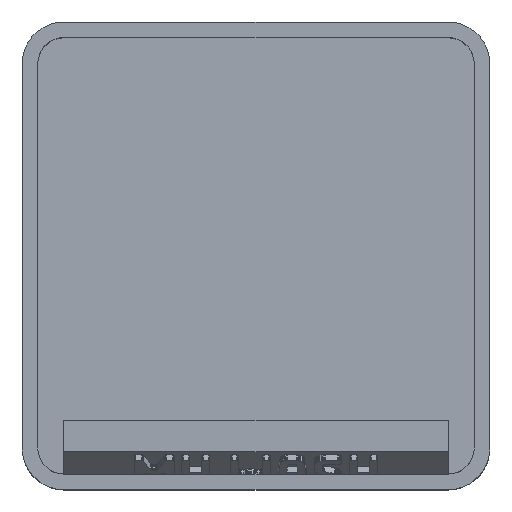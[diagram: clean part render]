
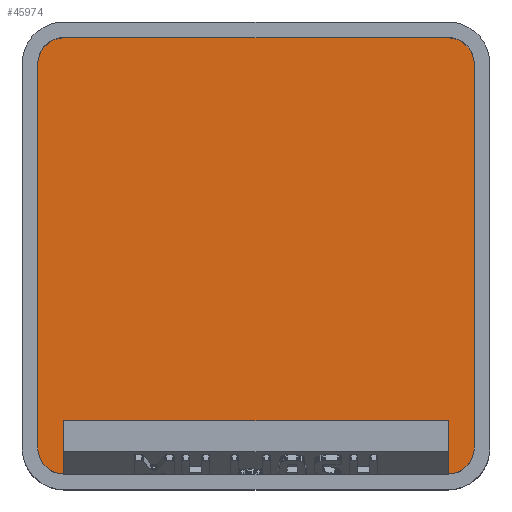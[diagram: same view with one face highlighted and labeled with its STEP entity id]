
A CAD part, top view. The second image highlights one B-rep face of the part: STEP entity #45974.
In plain terms, the highlighted planar face has unit normal (0, 0, 1).
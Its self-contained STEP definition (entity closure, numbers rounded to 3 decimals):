
#912 = PLANE('',#913);
#913 = AXIS2_PLACEMENT_3D('',#914,#915,#916);
#914 = CARTESIAN_POINT('',(-19.6,0.,21.));
#915 = DIRECTION('',(-1.,0.,0.));
#916 = DIRECTION('',(-0.,-1.,-0.));
#940 = CYLINDRICAL_SURFACE('',#941,2.35);
#941 = AXIS2_PLACEMENT_3D('',#942,#943,#944);
#942 = CARTESIAN_POINT('',(-17.25,17.25,5.95));
#943 = DIRECTION('',(-0.,-0.,1.));
#944 = DIRECTION('',(-1.,0.,0.));
#967 = PLANE('',#968);
#968 = AXIS2_PLACEMENT_3D('',#969,#970,#971);
#969 = CARTESIAN_POINT('',(0.,19.6,21.));
#970 = DIRECTION('',(0.,1.,0.));
#971 = DIRECTION('',(-1.,0.,0.));
#995 = CYLINDRICAL_SURFACE('',#996,2.35);
#996 = AXIS2_PLACEMENT_3D('',#997,#998,#999);
#997 = CARTESIAN_POINT('',(17.25,17.25,5.95));
#998 = DIRECTION('',(-0.,-0.,1.));
#999 = DIRECTION('',(-1.,0.,0.));
#1022 = PLANE('',#1023);
#1023 = AXIS2_PLACEMENT_3D('',#1024,#1025,#1026);
#1024 = CARTESIAN_POINT('',(19.6,0.,21.));
#1025 = DIRECTION('',(1.,0.,0.));
#1026 = DIRECTION('',(-0.,1.,0.));
#1050 = CYLINDRICAL_SURFACE('',#1051,2.35);
#1051 = AXIS2_PLACEMENT_3D('',#1052,#1053,#1054);
#1052 = CARTESIAN_POINT('',(17.25,-17.25,5.95));
#1053 = DIRECTION('',(-0.,-0.,1.));
#1054 = DIRECTION('',(-1.,0.,0.));
#1103 = CYLINDRICAL_SURFACE('',#1104,2.35);
#1104 = AXIS2_PLACEMENT_3D('',#1105,#1106,#1107);
#1105 = CARTESIAN_POINT('',(-17.25,-17.25,5.95));
#1106 = DIRECTION('',(-0.,-0.,1.));
#1107 = DIRECTION('',(-1.,0.,0.));
#16905 = EDGE_CURVE('',#16906,#16908,#16910,.T.);
#16906 = VERTEX_POINT('',#16907);
#16907 = CARTESIAN_POINT('',(-19.6,-17.25,5.95));
#16908 = VERTEX_POINT('',#16909);
#16909 = CARTESIAN_POINT('',(-19.6,17.25,5.95));
#16910 = SURFACE_CURVE('',#16911,(#16915,#16922),.PCURVE_S1.);
#16911 = LINE('',#16912,#16913);
#16912 = CARTESIAN_POINT('',(-19.6,0.,5.95));
#16913 = VECTOR('',#16914,1.);
#16914 = DIRECTION('',(0.,1.,0.));
#16915 = PCURVE('',#912,#16916);
#16916 = DEFINITIONAL_REPRESENTATION('',(#16917),#16921);
#16917 = LINE('',#16918,#16919);
#16918 = CARTESIAN_POINT('',(0.,-15.05));
#16919 = VECTOR('',#16920,1.);
#16920 = DIRECTION('',(-1.,0.));
#16921 = ( GEOMETRIC_REPRESENTATION_CONTEXT(2) 
PARAMETRIC_REPRESENTATION_CONTEXT() REPRESENTATION_CONTEXT('2D SPACE',''
  ) );
#16922 = PCURVE('',#16923,#16928);
#16923 = PLANE('',#16924);
#16924 = AXIS2_PLACEMENT_3D('',#16925,#16926,#16927);
#16925 = CARTESIAN_POINT('',(-17.25,-17.25,5.95));
#16926 = DIRECTION('',(0.,0.,-1.));
#16927 = DIRECTION('',(-1.,0.,0.));
#16928 = DEFINITIONAL_REPRESENTATION('',(#16929),#16933);
#16929 = LINE('',#16930,#16931);
#16930 = CARTESIAN_POINT('',(2.35,17.25));
#16931 = VECTOR('',#16932,1.);
#16932 = DIRECTION('',(0.,1.));
#16933 = ( GEOMETRIC_REPRESENTATION_CONTEXT(2) 
PARAMETRIC_REPRESENTATION_CONTEXT() REPRESENTATION_CONTEXT('2D SPACE',''
  ) );
#16980 = EDGE_CURVE('',#16981,#16906,#16983,.T.);
#16981 = VERTEX_POINT('',#16982);
#16982 = CARTESIAN_POINT('',(-17.25,-19.6,5.95));
#16983 = SURFACE_CURVE('',#16984,(#16989,#16996),.PCURVE_S1.);
#16984 = CIRCLE('',#16985,2.35);
#16985 = AXIS2_PLACEMENT_3D('',#16986,#16987,#16988);
#16986 = CARTESIAN_POINT('',(-17.25,-17.25,5.95));
#16987 = DIRECTION('',(0.,0.,-1.));
#16988 = DIRECTION('',(-1.,0.,0.));
#16989 = PCURVE('',#1103,#16990);
#16990 = DEFINITIONAL_REPRESENTATION('',(#16991),#16995);
#16991 = LINE('',#16992,#16993);
#16992 = CARTESIAN_POINT('',(6.283,0.));
#16993 = VECTOR('',#16994,1.);
#16994 = DIRECTION('',(-1.,0.));
#16995 = ( GEOMETRIC_REPRESENTATION_CONTEXT(2) 
PARAMETRIC_REPRESENTATION_CONTEXT() REPRESENTATION_CONTEXT('2D SPACE',''
  ) );
#16996 = PCURVE('',#16923,#16997);
#16997 = DEFINITIONAL_REPRESENTATION('',(#16998),#17002);
#16998 = CIRCLE('',#16999,2.35);
#16999 = AXIS2_PLACEMENT_2D('',#17000,#17001);
#17000 = CARTESIAN_POINT('',(0.,0.));
#17001 = DIRECTION('',(1.,0.));
#17002 = ( GEOMETRIC_REPRESENTATION_CONTEXT(2) 
PARAMETRIC_REPRESENTATION_CONTEXT() REPRESENTATION_CONTEXT('2D SPACE',''
  ) );
#17020 = PLANE('',#17021);
#17021 = AXIS2_PLACEMENT_3D('',#17022,#17023,#17024);
#17022 = CARTESIAN_POINT('',(0.,-19.6,21.));
#17023 = DIRECTION('',(0.,-1.,0.));
#17024 = DIRECTION('',(1.,0.,0.));
#17107 = EDGE_CURVE('',#17108,#17110,#17112,.T.);
#17108 = VERTEX_POINT('',#17109);
#17109 = CARTESIAN_POINT('',(19.6,-17.25,5.95));
#17110 = VERTEX_POINT('',#17111);
#17111 = CARTESIAN_POINT('',(17.25,-19.6,5.95));
#17112 = SURFACE_CURVE('',#17113,(#17118,#17125),.PCURVE_S1.);
#17113 = CIRCLE('',#17114,2.35);
#17114 = AXIS2_PLACEMENT_3D('',#17115,#17116,#17117);
#17115 = CARTESIAN_POINT('',(17.25,-17.25,5.95));
#17116 = DIRECTION('',(0.,0.,-1.));
#17117 = DIRECTION('',(-1.,0.,0.));
#17118 = PCURVE('',#1050,#17119);
#17119 = DEFINITIONAL_REPRESENTATION('',(#17120),#17124);
#17120 = LINE('',#17121,#17122);
#17121 = CARTESIAN_POINT('',(6.283,0.));
#17122 = VECTOR('',#17123,1.);
#17123 = DIRECTION('',(-1.,0.));
#17124 = ( GEOMETRIC_REPRESENTATION_CONTEXT(2) 
PARAMETRIC_REPRESENTATION_CONTEXT() REPRESENTATION_CONTEXT('2D SPACE',''
  ) );
#17125 = PCURVE('',#16923,#17126);
#17126 = DEFINITIONAL_REPRESENTATION('',(#17127),#17131);
#17127 = CIRCLE('',#17128,2.35);
#17128 = AXIS2_PLACEMENT_2D('',#17129,#17130);
#17129 = CARTESIAN_POINT('',(-34.5,0.));
#17130 = DIRECTION('',(1.,0.));
#17131 = ( GEOMETRIC_REPRESENTATION_CONTEXT(2) 
PARAMETRIC_REPRESENTATION_CONTEXT() REPRESENTATION_CONTEXT('2D SPACE',''
  ) );
#17205 = EDGE_CURVE('',#17108,#17206,#17208,.T.);
#17206 = VERTEX_POINT('',#17207);
#17207 = CARTESIAN_POINT('',(19.6,17.25,5.95));
#17208 = SURFACE_CURVE('',#17209,(#17213,#17220),.PCURVE_S1.);
#17209 = LINE('',#17210,#17211);
#17210 = CARTESIAN_POINT('',(19.6,0.,5.95));
#17211 = VECTOR('',#17212,1.);
#17212 = DIRECTION('',(0.,1.,0.));
#17213 = PCURVE('',#1022,#17214);
#17214 = DEFINITIONAL_REPRESENTATION('',(#17215),#17219);
#17215 = LINE('',#17216,#17217);
#17216 = CARTESIAN_POINT('',(0.,-15.05));
#17217 = VECTOR('',#17218,1.);
#17218 = DIRECTION('',(1.,0.));
#17219 = ( GEOMETRIC_REPRESENTATION_CONTEXT(2) 
PARAMETRIC_REPRESENTATION_CONTEXT() REPRESENTATION_CONTEXT('2D SPACE',''
  ) );
#17220 = PCURVE('',#16923,#17221);
#17221 = DEFINITIONAL_REPRESENTATION('',(#17222),#17226);
#17222 = LINE('',#17223,#17224);
#17223 = CARTESIAN_POINT('',(-36.85,17.25));
#17224 = VECTOR('',#17225,1.);
#17225 = DIRECTION('',(0.,1.));
#17226 = ( GEOMETRIC_REPRESENTATION_CONTEXT(2) 
PARAMETRIC_REPRESENTATION_CONTEXT() REPRESENTATION_CONTEXT('2D SPACE',''
  ) );
#17253 = EDGE_CURVE('',#17254,#17206,#17256,.T.);
#17254 = VERTEX_POINT('',#17255);
#17255 = CARTESIAN_POINT('',(17.25,19.6,5.95));
#17256 = SURFACE_CURVE('',#17257,(#17262,#17269),.PCURVE_S1.);
#17257 = CIRCLE('',#17258,2.35);
#17258 = AXIS2_PLACEMENT_3D('',#17259,#17260,#17261);
#17259 = CARTESIAN_POINT('',(17.25,17.25,5.95));
#17260 = DIRECTION('',(0.,0.,-1.));
#17261 = DIRECTION('',(-1.,0.,0.));
#17262 = PCURVE('',#995,#17263);
#17263 = DEFINITIONAL_REPRESENTATION('',(#17264),#17268);
#17264 = LINE('',#17265,#17266);
#17265 = CARTESIAN_POINT('',(6.283,0.));
#17266 = VECTOR('',#17267,1.);
#17267 = DIRECTION('',(-1.,0.));
#17268 = ( GEOMETRIC_REPRESENTATION_CONTEXT(2) 
PARAMETRIC_REPRESENTATION_CONTEXT() REPRESENTATION_CONTEXT('2D SPACE',''
  ) );
#17269 = PCURVE('',#16923,#17270);
#17270 = DEFINITIONAL_REPRESENTATION('',(#17271),#17275);
#17271 = CIRCLE('',#17272,2.35);
#17272 = AXIS2_PLACEMENT_2D('',#17273,#17274);
#17273 = CARTESIAN_POINT('',(-34.5,34.5));
#17274 = DIRECTION('',(1.,0.));
#17275 = ( GEOMETRIC_REPRESENTATION_CONTEXT(2) 
PARAMETRIC_REPRESENTATION_CONTEXT() REPRESENTATION_CONTEXT('2D SPACE',''
  ) );
#17303 = EDGE_CURVE('',#17304,#17254,#17306,.T.);
#17304 = VERTEX_POINT('',#17305);
#17305 = CARTESIAN_POINT('',(-17.25,19.6,5.95));
#17306 = SURFACE_CURVE('',#17307,(#17311,#17318),.PCURVE_S1.);
#17307 = LINE('',#17308,#17309);
#17308 = CARTESIAN_POINT('',(0.,19.6,5.95));
#17309 = VECTOR('',#17310,1.);
#17310 = DIRECTION('',(1.,0.,0.));
#17311 = PCURVE('',#967,#17312);
#17312 = DEFINITIONAL_REPRESENTATION('',(#17313),#17317);
#17313 = LINE('',#17314,#17315);
#17314 = CARTESIAN_POINT('',(0.,-15.05));
#17315 = VECTOR('',#17316,1.);
#17316 = DIRECTION('',(-1.,0.));
#17317 = ( GEOMETRIC_REPRESENTATION_CONTEXT(2) 
PARAMETRIC_REPRESENTATION_CONTEXT() REPRESENTATION_CONTEXT('2D SPACE',''
  ) );
#17318 = PCURVE('',#16923,#17319);
#17319 = DEFINITIONAL_REPRESENTATION('',(#17320),#17324);
#17320 = LINE('',#17321,#17322);
#17321 = CARTESIAN_POINT('',(-17.25,36.85));
#17322 = VECTOR('',#17323,1.);
#17323 = DIRECTION('',(-1.,0.));
#17324 = ( GEOMETRIC_REPRESENTATION_CONTEXT(2) 
PARAMETRIC_REPRESENTATION_CONTEXT() REPRESENTATION_CONTEXT('2D SPACE',''
  ) );
#17352 = EDGE_CURVE('',#16908,#17304,#17353,.T.);
#17353 = SURFACE_CURVE('',#17354,(#17359,#17366),.PCURVE_S1.);
#17354 = CIRCLE('',#17355,2.35);
#17355 = AXIS2_PLACEMENT_3D('',#17356,#17357,#17358);
#17356 = CARTESIAN_POINT('',(-17.25,17.25,5.95));
#17357 = DIRECTION('',(0.,0.,-1.));
#17358 = DIRECTION('',(-1.,0.,0.));
#17359 = PCURVE('',#940,#17360);
#17360 = DEFINITIONAL_REPRESENTATION('',(#17361),#17365);
#17361 = LINE('',#17362,#17363);
#17362 = CARTESIAN_POINT('',(6.283,0.));
#17363 = VECTOR('',#17364,1.);
#17364 = DIRECTION('',(-1.,0.));
#17365 = ( GEOMETRIC_REPRESENTATION_CONTEXT(2) 
PARAMETRIC_REPRESENTATION_CONTEXT() REPRESENTATION_CONTEXT('2D SPACE',''
  ) );
#17366 = PCURVE('',#16923,#17367);
#17367 = DEFINITIONAL_REPRESENTATION('',(#17368),#17372);
#17368 = CIRCLE('',#17369,2.35);
#17369 = AXIS2_PLACEMENT_2D('',#17370,#17371);
#17370 = CARTESIAN_POINT('',(0.,34.5));
#17371 = DIRECTION('',(1.,0.));
#17372 = ( GEOMETRIC_REPRESENTATION_CONTEXT(2) 
PARAMETRIC_REPRESENTATION_CONTEXT() REPRESENTATION_CONTEXT('2D SPACE',''
  ) );
#45974 = ADVANCED_FACE('',(#45975),#16923,.F.);
#45975 = FACE_BOUND('',#45976,.T.);
#45976 = EDGE_LOOP('',(#45977,#45978,#45979,#46000,#46001,#46002,#46003,
    #46004));
#45977 = ORIENTED_EDGE('',*,*,#16905,.F.);
#45978 = ORIENTED_EDGE('',*,*,#16980,.F.);
#45979 = ORIENTED_EDGE('',*,*,#45980,.T.);
#45980 = EDGE_CURVE('',#16981,#17110,#45981,.T.);
#45981 = SURFACE_CURVE('',#45982,(#45986,#45993),.PCURVE_S1.);
#45982 = LINE('',#45983,#45984);
#45983 = CARTESIAN_POINT('',(0.,-19.6,5.95));
#45984 = VECTOR('',#45985,1.);
#45985 = DIRECTION('',(1.,0.,0.));
#45986 = PCURVE('',#16923,#45987);
#45987 = DEFINITIONAL_REPRESENTATION('',(#45988),#45992);
#45988 = LINE('',#45989,#45990);
#45989 = CARTESIAN_POINT('',(-17.25,-2.35));
#45990 = VECTOR('',#45991,1.);
#45991 = DIRECTION('',(-1.,0.));
#45992 = ( GEOMETRIC_REPRESENTATION_CONTEXT(2) 
PARAMETRIC_REPRESENTATION_CONTEXT() REPRESENTATION_CONTEXT('2D SPACE',''
  ) );
#45993 = PCURVE('',#17020,#45994);
#45994 = DEFINITIONAL_REPRESENTATION('',(#45995),#45999);
#45995 = LINE('',#45996,#45997);
#45996 = CARTESIAN_POINT('',(0.,-15.05));
#45997 = VECTOR('',#45998,1.);
#45998 = DIRECTION('',(1.,0.));
#45999 = ( GEOMETRIC_REPRESENTATION_CONTEXT(2) 
PARAMETRIC_REPRESENTATION_CONTEXT() REPRESENTATION_CONTEXT('2D SPACE',''
  ) );
#46000 = ORIENTED_EDGE('',*,*,#17107,.F.);
#46001 = ORIENTED_EDGE('',*,*,#17205,.T.);
#46002 = ORIENTED_EDGE('',*,*,#17253,.F.);
#46003 = ORIENTED_EDGE('',*,*,#17303,.F.);
#46004 = ORIENTED_EDGE('',*,*,#17352,.F.);
